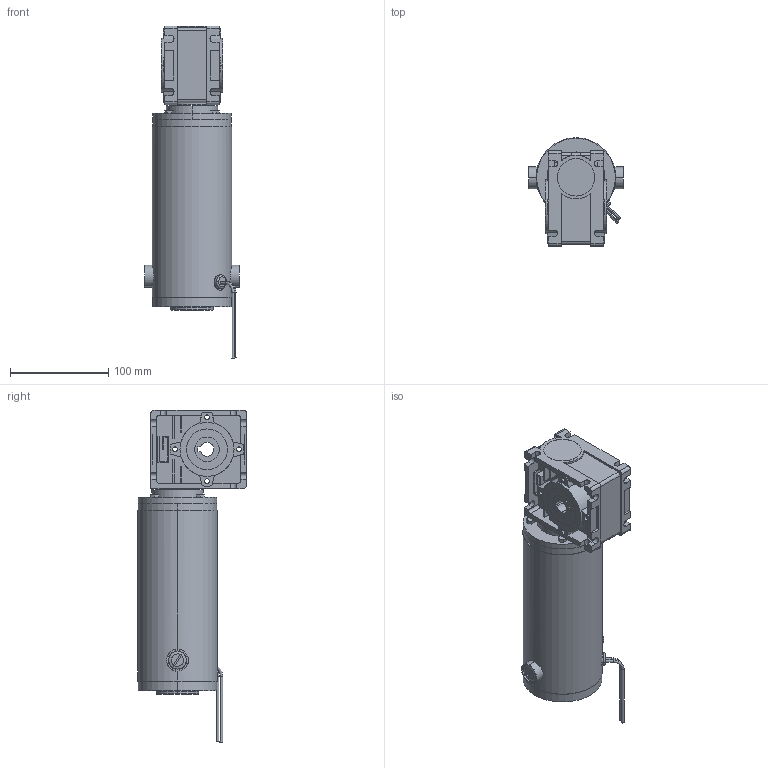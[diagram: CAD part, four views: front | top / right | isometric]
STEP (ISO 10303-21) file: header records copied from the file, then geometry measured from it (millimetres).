
FILE_DESCRIPTION (( 'STEP AP203' ), '1' );
FILE_NAME ('PM8018LV-RA3000T.STEP', '2008-06-30T18:06:44', ( 'eng-rjs' ), ( 'groschopp' ), 'SwSTEP 2.0', 'SolidWorks 2008', '' );
FILE_SCHEMA (( 'CONFIG_CONTROL_DESIGN' ));
Length unit declared in the file: inch
Products named in the file (1): PM8018LV-RA3000T
Bounding box: 96.27 x 110.51 x 337.74 mm (x, y, z)
Surface area: 140967.3 mm2 (no closed solid volume)
Topology: 0 solids, 26 shells, 444 faces, 1259 edges, 848 vertices
Faces by surface type: plane 256, cylinder 147, cone 30, torus 10, bspline 1
Entity records: 14888 total; most frequent: CARTESIAN_POINT 3080, DIRECTION 2499, ORIENTED_EDGE 2314, EDGE_CURVE 1259, AXIS2_PLACEMENT_3D 855, VERTEX_POINT 848, VECTOR 789, LINE 789
